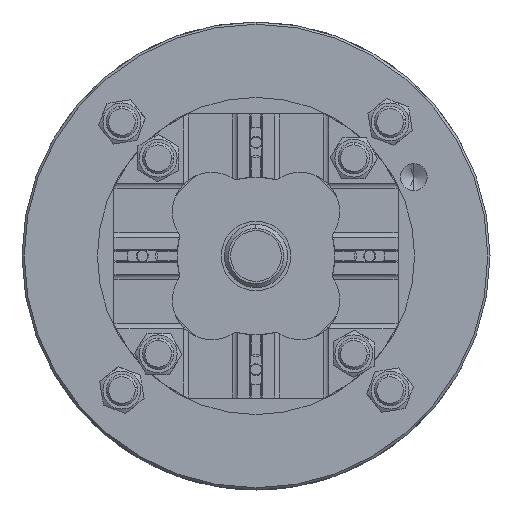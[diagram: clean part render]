
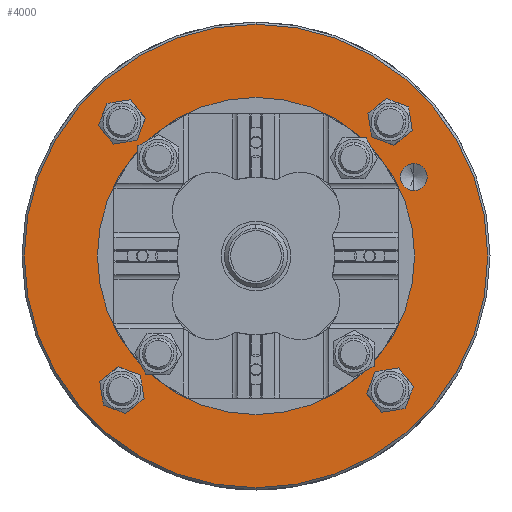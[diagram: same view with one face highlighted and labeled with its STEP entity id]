
A CAD part, front view. The second image highlights one B-rep face of the part: STEP entity #4000.
In plain terms, the highlighted planar face has unit normal (0, -1, 0).
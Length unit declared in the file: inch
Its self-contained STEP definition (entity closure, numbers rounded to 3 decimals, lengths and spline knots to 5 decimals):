
#155 = CIRCLE ( 'NONE', #18752, 2.89173 ) ;
#192 = DIRECTION ( 'NONE',  ( 0., -1., 0. ) ) ;
#230 = AXIS2_PLACEMENT_3D ( 'NONE', #28013, #8455, #31309 ) ;
#299 = EDGE_LOOP ( 'NONE', ( #39209, #25337 ) ) ;
#340 = VERTEX_POINT ( 'NONE', #26677 ) ;
#370 = DIRECTION ( 'NONE',  ( 0., 0., -1. ) ) ;
#1319 = VERTEX_POINT ( 'NONE', #25053 ) ;
#1531 = VERTEX_POINT ( 'NONE', #26034 ) ;
#2964 = EDGE_CURVE ( 'NONE', #38355, #22749, #25846, .T. ) ;
#3099 = DIRECTION ( 'NONE',  ( 0., 0., -1. ) ) ;
#3122 = ORIENTED_EDGE ( 'NONE', *, *, #14351, .F. ) ;
#3262 = DIRECTION ( 'NONE',  ( 0., 0., -1. ) ) ;
#3386 = VERTEX_POINT ( 'NONE', #4319 ) ;
#3537 = AXIS2_PLACEMENT_3D ( 'NONE', #42190, #22642, #3099 ) ;
#4000 = ADVANCED_FACE ( 'NONE', ( #16507, #33871, #32848, #25245, #24184, #15489, #6801 ), #6841, .T. ) ;
#4160 = VERTEX_POINT ( 'NONE', #37306 ) ;
#4319 = CARTESIAN_POINT ( 'NONE',  ( 1.9685, -0.552, 0.81693 ) ) ;
#4909 = VERTEX_POINT ( 'NONE', #7731 ) ;
#5570 = EDGE_CURVE ( 'NONE', #24469, #4909, #35756, .T. ) ;
#5989 = ORIENTED_EDGE ( 'NONE', *, *, #5570, .F. ) ;
#6008 = ORIENTED_EDGE ( 'NONE', *, *, #21343, .F. ) ;
#6338 = CARTESIAN_POINT ( 'NONE',  ( 1.67323, -0.552, 1.53937 ) ) ;
#6801 = FACE_OUTER_BOUND ( 'NONE', #21870, .T. ) ;
#6841 = PLANE ( 'NONE',  #10354 ) ;
#6851 = CIRCLE ( 'NONE', #35718, 0.13386 ) ;
#7244 = VERTEX_POINT ( 'NONE', #33569 ) ;
#7731 = CARTESIAN_POINT ( 'NONE',  ( -1.67323, -0.552, -1.53937 ) ) ;
#7835 = EDGE_CURVE ( 'NONE', #1531, #340, #41954, .T. ) ;
#7932 = CARTESIAN_POINT ( 'NONE',  ( 1.67323, -0.552, 1.67323 ) ) ;
#8088 = EDGE_CURVE ( 'NONE', #27593, #4160, #38325, .T. ) ;
#8454 = EDGE_LOOP ( 'NONE', ( #17899, #10423 ) ) ;
#8455 = DIRECTION ( 'NONE',  ( 0., -1., 0. ) ) ;
#8731 = CIRCLE ( 'NONE', #3537, 0.13386 ) ;
#9611 = EDGE_CURVE ( 'NONE', #4160, #27593, #29558, .T. ) ;
#9825 = DIRECTION ( 'NONE',  ( 0., 1., 0. ) ) ;
#10148 = DIRECTION ( 'NONE',  ( 0., -1., 0. ) ) ;
#10354 = AXIS2_PLACEMENT_3D ( 'NONE', #32805, #10148, #32951 ) ;
#10423 = ORIENTED_EDGE ( 'NONE', *, *, #9611, .T. ) ;
#10642 = CIRCLE ( 'NONE', #16772, 0.13386 ) ;
#11243 = DIRECTION ( 'NONE',  ( 0., 0., -1. ) ) ;
#11764 = CARTESIAN_POINT ( 'NONE',  ( -1.67323, -0.552, -1.67323 ) ) ;
#11858 = CARTESIAN_POINT ( 'NONE',  ( 0., -0.552, 0. ) ) ;
#13029 = EDGE_LOOP ( 'NONE', ( #36331, #36883 ) ) ;
#13163 = CIRCLE ( 'NONE', #40845, 0.13386 ) ;
#13982 = AXIS2_PLACEMENT_3D ( 'NONE', #14237, #37097, #17548 ) ;
#14237 = CARTESIAN_POINT ( 'NONE',  ( -1.67323, -0.552, 1.67323 ) ) ;
#14351 = EDGE_CURVE ( 'NONE', #21473, #3386, #30701, .T. ) ;
#14988 = DIRECTION ( 'NONE',  ( 0., 0., -1. ) ) ;
#15081 = DIRECTION ( 'NONE',  ( 0., 0., 1. ) ) ;
#15489 = FACE_BOUND ( 'NONE', #8454, .T. ) ;
#15502 = CARTESIAN_POINT ( 'NONE',  ( 0., -0.552, 0. ) ) ;
#15644 = EDGE_CURVE ( 'NONE', #340, #1531, #8731, .T. ) ;
#15678 = CARTESIAN_POINT ( 'NONE',  ( 0., -0.552, 0. ) ) ;
#16507 = FACE_BOUND ( 'NONE', #18150, .T. ) ;
#16703 = CIRCLE ( 'NONE', #30324, 0.16732 ) ;
#16772 = AXIS2_PLACEMENT_3D ( 'NONE', #42332, #22791, #3262 ) ;
#17358 = DIRECTION ( 'NONE',  ( 0., -1., 0. ) ) ;
#17548 = DIRECTION ( 'NONE',  ( 0., 0., -1. ) ) ;
#17899 = ORIENTED_EDGE ( 'NONE', *, *, #8088, .T. ) ;
#17911 = CIRCLE ( 'NONE', #32877, 2.89173 ) ;
#18150 = EDGE_LOOP ( 'NONE', ( #24895, #3122 ) ) ;
#18245 = EDGE_CURVE ( 'NONE', #34180, #37740, #19945, .T. ) ;
#18752 = AXIS2_PLACEMENT_3D ( 'NONE', #11858, #34647, #15081 ) ;
#18764 = DIRECTION ( 'NONE',  ( 0., 0., 1. ) ) ;
#18949 = DIRECTION ( 'NONE',  ( 0., 0., 1. ) ) ;
#19206 = DIRECTION ( 'NONE',  ( 0., -1., 0. ) ) ;
#19719 = CARTESIAN_POINT ( 'NONE',  ( 1.67323, -0.552, 1.67323 ) ) ;
#19822 = EDGE_CURVE ( 'NONE', #4909, #24469, #10642, .T. ) ;
#19876 = EDGE_CURVE ( 'NONE', #37740, #34180, #13163, .T. ) ;
#19923 = DIRECTION ( 'NONE',  ( 0., -1., 0. ) ) ;
#19945 = CIRCLE ( 'NONE', #34800, 0.13386 ) ;
#20696 = CARTESIAN_POINT ( 'NONE',  ( 1.9685, -0.552, 1.15157 ) ) ;
#20874 = CARTESIAN_POINT ( 'NONE',  ( 1.67323, -0.552, -1.53937 ) ) ;
#21343 = EDGE_CURVE ( 'NONE', #22749, #38355, #6851, .T. ) ;
#21448 = AXIS2_PLACEMENT_3D ( 'NONE', #15502, #38317, #18764 ) ;
#21464 = ORIENTED_EDGE ( 'NONE', *, *, #35220, .F. ) ;
#21473 = VERTEX_POINT ( 'NONE', #20696 ) ;
#21870 = EDGE_LOOP ( 'NONE', ( #21464, #28958 ) ) ;
#22642 = DIRECTION ( 'NONE',  ( 0., -1., 0. ) ) ;
#22749 = VERTEX_POINT ( 'NONE', #6338 ) ;
#22791 = DIRECTION ( 'NONE',  ( 0., -1., 0. ) ) ;
#22994 = DIRECTION ( 'NONE',  ( 0., 0., -1. ) ) ;
#24152 = EDGE_LOOP ( 'NONE', ( #5989, #29700 ) ) ;
#24184 = FACE_BOUND ( 'NONE', #24152, .T. ) ;
#24469 = VERTEX_POINT ( 'NONE', #30183 ) ;
#24895 = ORIENTED_EDGE ( 'NONE', *, *, #28972, .F. ) ;
#25053 = CARTESIAN_POINT ( 'NONE',  ( 0., -0.552, -2.89173 ) ) ;
#25245 = FACE_BOUND ( 'NONE', #299, .T. ) ;
#25337 = ORIENTED_EDGE ( 'NONE', *, *, #7835, .F. ) ;
#25498 = AXIS2_PLACEMENT_3D ( 'NONE', #7932, #30778, #11243 ) ;
#25846 = CIRCLE ( 'NONE', #25498, 0.13386 ) ;
#26034 = CARTESIAN_POINT ( 'NONE',  ( -1.67323, -0.552, 1.80709 ) ) ;
#26114 = CARTESIAN_POINT ( 'NONE',  ( 1.67323, -0.552, -1.80709 ) ) ;
#26677 = CARTESIAN_POINT ( 'NONE',  ( -1.67323, -0.552, 1.53937 ) ) ;
#27593 = VERTEX_POINT ( 'NONE', #39478 ) ;
#28013 = CARTESIAN_POINT ( 'NONE',  ( 1.9685, -0.552, 0.98425 ) ) ;
#28958 = ORIENTED_EDGE ( 'NONE', *, *, #32443, .F. ) ;
#28972 = EDGE_CURVE ( 'NONE', #3386, #21473, #16703, .T. ) ;
#29361 = CARTESIAN_POINT ( 'NONE',  ( 0., -0.552, 0. ) ) ;
#29558 = CIRCLE ( 'NONE', #21448, 1.97835 ) ;
#29700 = ORIENTED_EDGE ( 'NONE', *, *, #19822, .F. ) ;
#30179 = ORIENTED_EDGE ( 'NONE', *, *, #2964, .F. ) ;
#30183 = CARTESIAN_POINT ( 'NONE',  ( -1.67323, -0.552, -1.80709 ) ) ;
#30324 = AXIS2_PLACEMENT_3D ( 'NONE', #38748, #19206, #42064 ) ;
#30701 = CIRCLE ( 'NONE', #230, 0.16732 ) ;
#30778 = DIRECTION ( 'NONE',  ( 0., -1., 0. ) ) ;
#31309 = DIRECTION ( 'NONE',  ( 0., 0., -1. ) ) ;
#32443 = EDGE_CURVE ( 'NONE', #1319, #7244, #17911, .T. ) ;
#32606 = DIRECTION ( 'NONE',  ( 0., 0., 1. ) ) ;
#32805 = CARTESIAN_POINT ( 'NONE',  ( -2.89173, -0.552, 0. ) ) ;
#32848 = FACE_BOUND ( 'NONE', #41325, .T. ) ;
#32861 = CARTESIAN_POINT ( 'NONE',  ( 1.67323, -0.552, 1.80709 ) ) ;
#32877 = AXIS2_PLACEMENT_3D ( 'NONE', #29361, #9825, #32606 ) ;
#32951 = DIRECTION ( 'NONE',  ( 0., 0., -1. ) ) ;
#33569 = CARTESIAN_POINT ( 'NONE',  ( 0., -0.552, 2.89173 ) ) ;
#33871 = FACE_BOUND ( 'NONE', #13029, .T. ) ;
#34180 = VERTEX_POINT ( 'NONE', #20874 ) ;
#34554 = DIRECTION ( 'NONE',  ( 0., -1., 0. ) ) ;
#34647 = DIRECTION ( 'NONE',  ( 0., 1., 0. ) ) ;
#34800 = AXIS2_PLACEMENT_3D ( 'NONE', #36921, #17358, #40206 ) ;
#35220 = EDGE_CURVE ( 'NONE', #7244, #1319, #155, .T. ) ;
#35718 = AXIS2_PLACEMENT_3D ( 'NONE', #19719, #192, #22994 ) ;
#35756 = CIRCLE ( 'NONE', #38253, 0.13386 ) ;
#36331 = ORIENTED_EDGE ( 'NONE', *, *, #19876, .F. ) ;
#36883 = ORIENTED_EDGE ( 'NONE', *, *, #18245, .F. ) ;
#36921 = CARTESIAN_POINT ( 'NONE',  ( 1.67323, -0.552, -1.67323 ) ) ;
#37097 = DIRECTION ( 'NONE',  ( 0., -1., 0. ) ) ;
#37241 = AXIS2_PLACEMENT_3D ( 'NONE', #15678, #38501, #18949 ) ;
#37306 = CARTESIAN_POINT ( 'NONE',  ( 0., -0.552, -1.97835 ) ) ;
#37740 = VERTEX_POINT ( 'NONE', #26114 ) ;
#38253 = AXIS2_PLACEMENT_3D ( 'NONE', #11764, #34554, #14988 ) ;
#38317 = DIRECTION ( 'NONE',  ( 0., 1., 0. ) ) ;
#38325 = CIRCLE ( 'NONE', #37241, 1.97835 ) ;
#38355 = VERTEX_POINT ( 'NONE', #32861 ) ;
#38501 = DIRECTION ( 'NONE',  ( 0., 1., 0. ) ) ;
#38748 = CARTESIAN_POINT ( 'NONE',  ( 1.9685, -0.552, 0.98425 ) ) ;
#39209 = ORIENTED_EDGE ( 'NONE', *, *, #15644, .F. ) ;
#39470 = CARTESIAN_POINT ( 'NONE',  ( 1.67323, -0.552, -1.67323 ) ) ;
#39478 = CARTESIAN_POINT ( 'NONE',  ( 0., -0.552, 1.97835 ) ) ;
#40206 = DIRECTION ( 'NONE',  ( 0., 0., -1. ) ) ;
#40845 = AXIS2_PLACEMENT_3D ( 'NONE', #39470, #19923, #370 ) ;
#41325 = EDGE_LOOP ( 'NONE', ( #6008, #30179 ) ) ;
#41954 = CIRCLE ( 'NONE', #13982, 0.13386 ) ;
#42064 = DIRECTION ( 'NONE',  ( 0., 0., -1. ) ) ;
#42190 = CARTESIAN_POINT ( 'NONE',  ( -1.67323, -0.552, 1.67323 ) ) ;
#42332 = CARTESIAN_POINT ( 'NONE',  ( -1.67323, -0.552, -1.67323 ) ) ;
